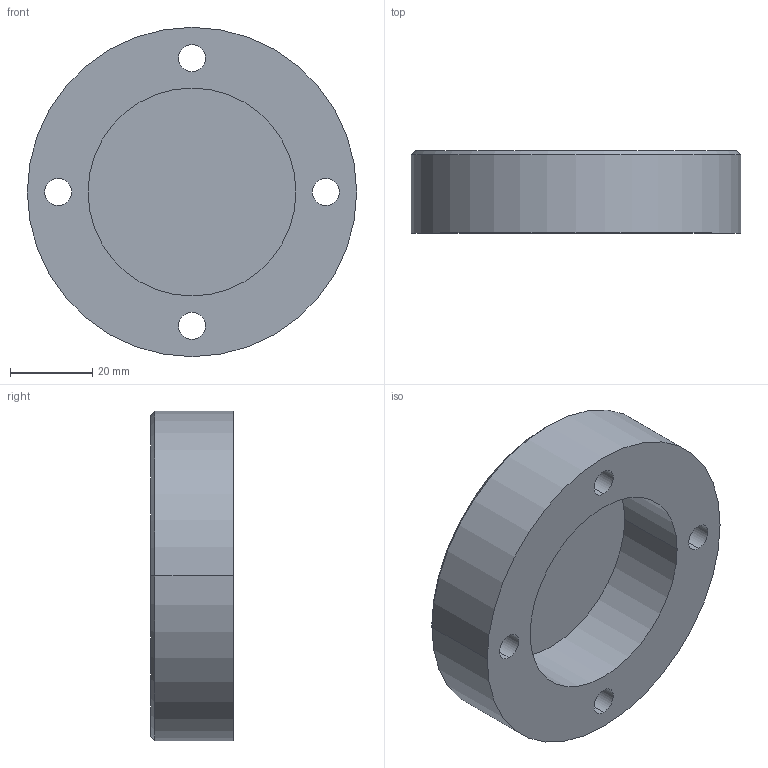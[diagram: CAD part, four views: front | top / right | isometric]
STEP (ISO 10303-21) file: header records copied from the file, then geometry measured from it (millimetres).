
FILE_DESCRIPTION (( 'STEP AP203' ), '1' );
FILE_NAME ('084.803.009.STEP', '2013-01-29T12:50:57', ( 'Alusic' ), ( 'Alusic' ), 'SwSTEP 2.0', 'SolidWorks 2011', '' );
FILE_SCHEMA (( 'CONFIG_CONTROL_DESIGN' ));
Length unit declared in the file: millimetre
Products named in the file (1): 084.803.009
Bounding box: 80 x 20 x 80 mm (x, y, z)
Volume: 60156.4 mm3; surface area: 19503.6 mm2
Topology: 1 solids, 1 shells, 29 faces, 64 edges, 42 vertices
Faces by surface type: cylinder 20, plane 7, cone 2
Entity records: 917 total; most frequent: DIRECTION 166, CARTESIAN_POINT 136, ORIENTED_EDGE 128, AXIS2_PLACEMENT_3D 72, EDGE_CURVE 64, EDGE_LOOP 42, VERTEX_POINT 42, CIRCLE 42
